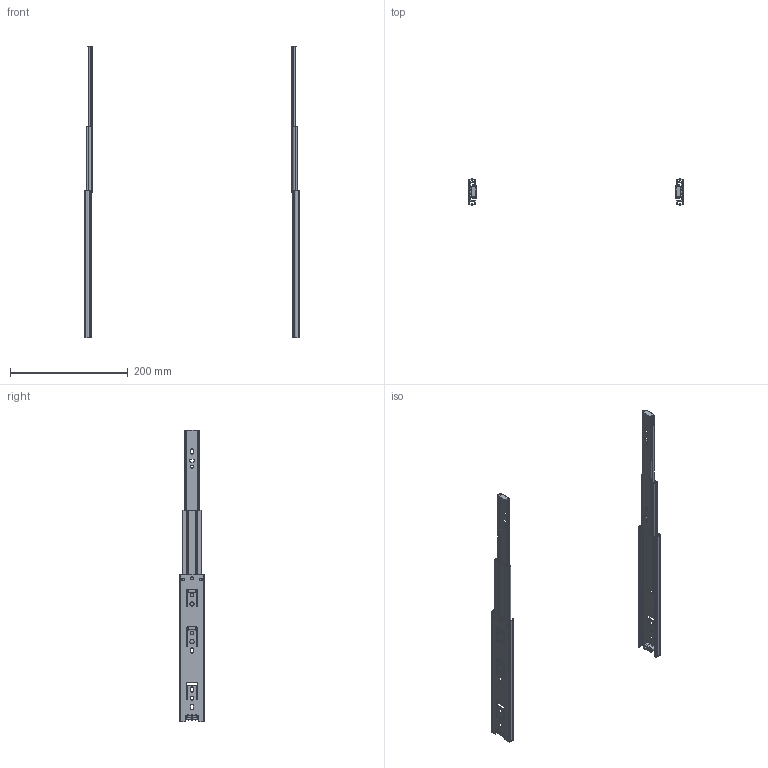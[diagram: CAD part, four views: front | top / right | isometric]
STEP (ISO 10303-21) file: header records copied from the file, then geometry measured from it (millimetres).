
FILE_DESCRIPTION(/* description */ (''),/* implementation_level */ '2;1');
FILE_NAME(/* name */ 'D:\$Workingspace\Designs\Katalog\Cadsoft\GTV Prowadnice\Prowadnice GTV_bryły 3D\PK-0H45250GX1_wysunieta.stp',/* time_stamp */ '2016-11-22T12:13:31+01:00',/* author */ ('tomaszw'),/* organization */ (''),/* preprocessor_version */ 'ST-DEVELOPER v16.1',/* originating_system */ 'Autodesk Inventor 2016',/* authorisation */ '');
FILE_SCHEMA (('AUTOMOTIVE_DESIGN { 1 0 10303 214 3 1 1 }'));
Length unit declared in the file: millimetre
Products named in the file (5): Blokada_5; PK-0H45_1-250-GX1; PK-0H45_2-250-GX1; PK-0H45_3-250-GX1; PK-0H45-_-GX1
Assembly tree (8 placements, depth 2):
  PK-0H45-_-GX1
    Blokada_5  x2
    PK-0H45_1-250-GX1  x2
    PK-0H45_2-250-GX1  x2
    PK-0H45_3-250-GX1  x2
Bounding box: 364 x 43.8 x 495 mm (x, y, z)
Volume: 72906.1 mm3; surface area: 148262.7 mm2
Topology: 8 solids, 8 shells, 442 faces, 1270 edges, 844 vertices
Faces by surface type: cylinder 222, plane 216, cone 4
Full cylindrical faces by diameter (mm): 4.5 x4, 5 x2, 6 x6, 7 x4
Entity records: 7725 total; most frequent: CARTESIAN_POINT 1309, DIRECTION 1307, ORIENTED_EDGE 1254, EDGE_CURVE 627, AXIS2_PLACEMENT_3D 454, VERTEX_POINT 422, LINE 399, VECTOR 399
